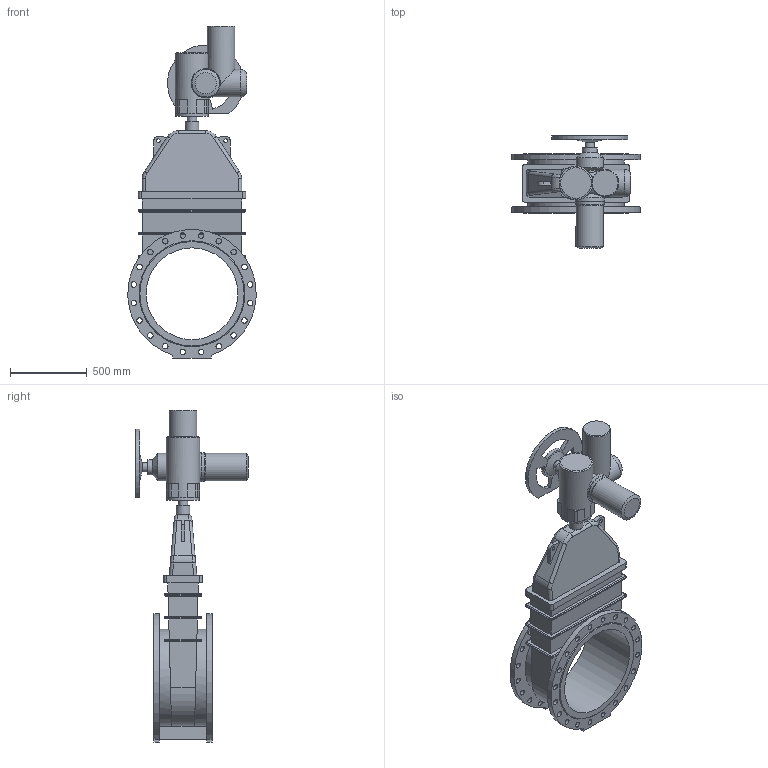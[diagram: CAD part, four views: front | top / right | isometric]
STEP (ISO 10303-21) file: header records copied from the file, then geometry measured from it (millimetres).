
FILE_DESCRIPTION(('STEP AP203'), '1');
FILE_NAME('青溻桄赅 47GVA DN600 PN16+MT903.A60', '', ('UNSPECIFIED'), ('UNSPECIFIED'), 'ASCON STEP Converter 1.6', 'ASCON Math Kernel', '');
FILE_SCHEMA(('CONFIG_CONTROL_DESIGN'));
Length unit declared in the file: millimetre
Bounding box: 838.28 x 733 x 2170 mm (x, y, z)
Volume: 165287245.9 mm3; surface area: 5710698.4 mm2
Topology: 2 solids, 2 shells, 334 faces, 837 edges, 534 vertices
Faces by surface type: cylinder 157, plane 133, bspline 32, cone 11, torus 1
Full cylindrical faces by diameter (mm): 17.5 x4, 22 x4, 25 x2, 36 x40, 40 x1, 60 x2, 90 x1, 100 x1, 130 x2, 140 x1, 180 x4, 187 x1, 191 x1, 210 x1, 220 x1, 600 x1
Entity records: 16490 total; most frequent: CARTESIAN_POINT 6077, DIRECTION 1524, ORIENTED_EDGE 1516, EDGE_CURVE 758, AXIS2_PLACEMENT_3D 580, EDGE_LOOP 539, VERTEX_POINT 533, FACE_BOUND 393
